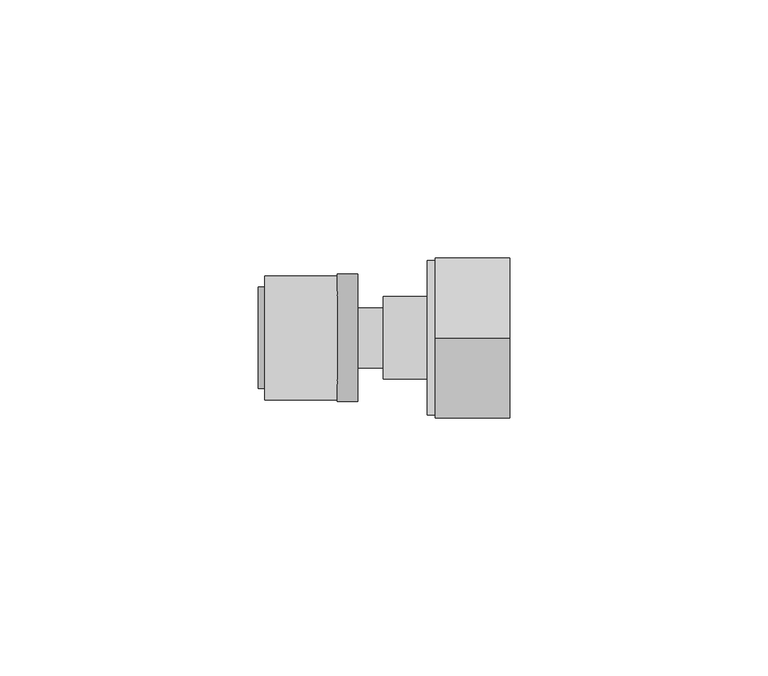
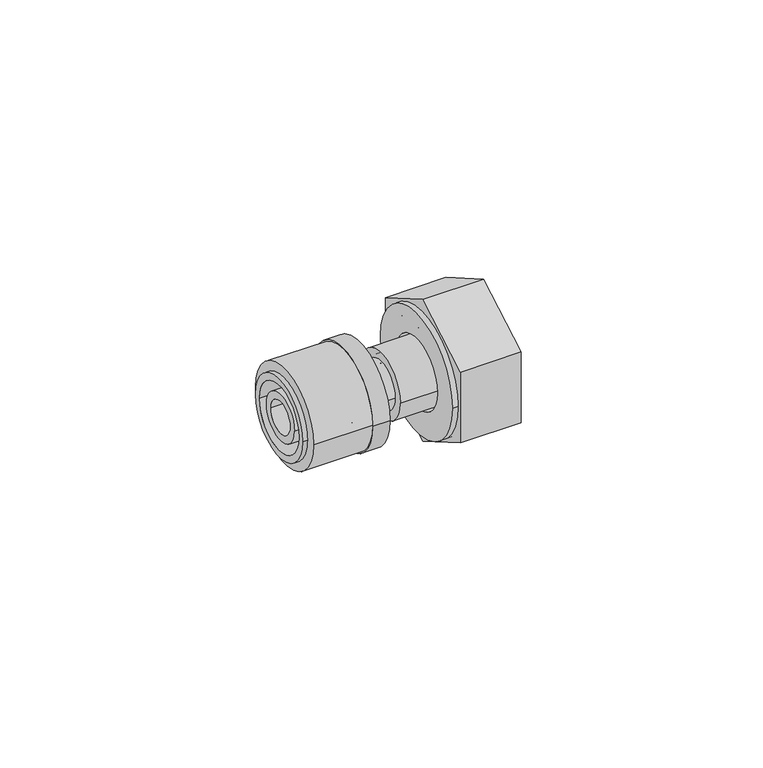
"""IFC4 building model written with IfcOpenShell, lengths in millimetres: pipe fitting geometry, FASTLOC_Adapter with union nut LX : FSL A union nut CZ."""

from ifc_helpers import new_model, si_unit, point, frame, origin, origin_2d, place, context, project, spatial, polyline, circle_curve, trimmed, segment, composite_curve, outline, extrude, source, transform, mapped, element, save
from ifc_brep_helpers import plane_surface, cylinder_surface, revolved_surface, advanced_brep


def pipe_fitting_a340ff43(model_context):
    return source(origin(), model_context, "Body", "SolidModel", [
        extrude(outline(composite_curve([segment(trimmed(circle_curve(origin_2d(), 12.0), [point((12.0, 0.0))], [point((-12.0, 0.0))], False, "CARTESIAN"), True, "CONTINUOUS"), segment(trimmed(circle_curve(origin_2d(), 12.0), [point((-12.0, 0.0))], [point((12.0, 0.0))], False, "CARTESIAN"), True, "CONTINUOUS")], self_intersect=False), holes=[composite_curve([segment(trimmed(circle_curve(origin_2d(), 8.85), [point((8.85, 0.0))], [point((-8.85, 0.0))], True, "CARTESIAN"), True, "CONTINUOUS"), segment(trimmed(circle_curve(origin_2d(), 8.85), [point((-8.85, 0.0))], [point((8.85, 0.0))], True, "CARTESIAN"), True, "CONTINUOUS")], self_intersect=False)]), frame((-23.0, 0.0, 0.0), z_axis=(1.0, 0.0, 0.0), x_axis=(0.0, 1.0, 0.0)), (0.0, 0.0, 1.0), 14.0),
        advanced_brep(
        [(-9.0, -12.35, 0.0), (-9.0, 12.35, 0.0), (-5.0, 12.35, 0.0), (-5.0, -12.35, 0.0), (-24.3, -9.85, 0.0), (-24.3, 9.85, 0.0), (-9.0, 9.85, 0.0), (-9.0, -9.85, 0.0), (-5.0, -8.15, 0.0), (-5.0, 8.15, 0.0), (-24.3, 8.15, 0.0), (-24.3, -8.15, 0.0)],
        [
            (0, 1, circle_curve(frame((-9.0, 0.0, 0.0), z_axis=(1.0, 0.0, 0.0), x_axis=(0.0, 1.0, 0.0)), 12.35)),
            (1, 2),
            (2, 3, circle_curve(frame((-5.0, 0.0, 0.0), z_axis=(-1.0, 0.0, 0.0), x_axis=(0.0, 1.0, 0.0)), 12.35)),
            (3, 0),
            (4, 5, circle_curve(frame((-24.3, 0.0, 0.0), z_axis=(1.0, 0.0, 0.0), x_axis=(0.0, 1.0, 0.0)), 9.85)),
            (5, 6),
            (6, 7, circle_curve(frame((-9.0, 0.0, 0.0), z_axis=(-1.0, 0.0, 0.0), x_axis=(0.0, 1.0, 0.0)), 9.85)),
            (7, 4),
            (8, 9, circle_curve(frame((-5.0, 0.0, 0.0), z_axis=(1.0, 0.0, 0.0), x_axis=(0.0, 1.0, 0.0)), 8.15)),
            (9, 10),
            (10, 11, circle_curve(frame((-24.3, 0.0, 0.0), z_axis=(-1.0, 0.0, 0.0), x_axis=(0.0, 1.0, 0.0)), 8.15)),
            (11, 8),
            (1, 0, circle_curve(frame((-9.0, 0.0, 0.0), z_axis=(1.0, 0.0, 0.0), x_axis=(0.0, -1.0, 0.0)), 12.35)),
            (3, 2, circle_curve(frame((-5.0, 0.0, 0.0), z_axis=(-1.0, 0.0, 0.0), x_axis=(0.0, -1.0, 0.0)), 12.35)),
            (6, 7, circle_curve(frame((-9.0, 0.0, 0.0), z_axis=(1.0, 0.0, 0.0), x_axis=(0.0, -1.0, 0.0)), 9.85)),
            (5, 4, circle_curve(frame((-24.3, 0.0, 0.0), z_axis=(1.0, 0.0, 0.0), x_axis=(0.0, -1.0, 0.0)), 9.85)),
            (10, 11, circle_curve(frame((-24.3, 0.0, 0.0), z_axis=(1.0, 0.0, 0.0), x_axis=(0.0, -1.0, 0.0)), 8.15)),
            (9, 8, circle_curve(frame((-5.0, 0.0, 0.0), z_axis=(1.0, 0.0, 0.0), x_axis=(0.0, -1.0, 0.0)), 8.15)),
        ],
        [
            cylinder_surface(frame((-5.0, 0.0, 0.0), z_axis=(-1.0, 0.0, 0.0), x_axis=(0.0, 1.0, 0.0)), 12.35),
            cylinder_surface(frame((-5.0, 0.0, 0.0), z_axis=(-1.0, 0.0, 0.0), x_axis=(0.0, 1.0, 0.0)), 9.85),
            revolved_surface(polyline([(-24.3, 8.15, 0.0), (-5.0, 8.15, 0.0)]), (-5.0, 0.0, 0.0), (-1.0, 0.0, 0.0)),
            cylinder_surface(frame((-5.0, 0.0, 0.0), z_axis=(-1.0, 0.0, 0.0), x_axis=(0.0, -1.0, 0.0)), 12.35),
            plane_surface(frame((-9.0, 0.0, 0.0), z_axis=(-1.0, 0.0, 0.0), x_axis=(0.0, -1.0, 0.0))),
            cylinder_surface(frame((-5.0, 0.0, 0.0), z_axis=(-1.0, 0.0, 0.0), x_axis=(0.0, -1.0, 0.0)), 9.85),
            plane_surface(frame((-24.3, 0.0, 0.0), z_axis=(-1.0, 0.0, 0.0), x_axis=(0.0, -1.0, 0.0))),
            revolved_surface(polyline([(-24.3, -8.15, 0.0), (-5.0, -8.15, 0.0)]), (-5.0, 0.0, 0.0), (-1.0, 0.0, 0.0)),
            plane_surface(frame((-5.0, 0.0, 0.0), z_axis=(1.0, 0.0, 0.0), x_axis=(0.0, -1.0, 0.0))),
        ],
        [
            (0, [[1, 2, 3, 4]]),
            (1, [[5, 6, 7, 8]]),
            (2, [[9, 10, 11, 12]]),
            (3, [[13, -4, 14, -2]]),
            (4, [[-13, -1], [15, -7]]),
            (5, [[16, -8, -15, -6]]),
            (6, [[-16, -5], [17, -11]]),
            (7, [[18, -12, -17, -10]]),
            (8, [[-14, -3], [-18, -9]]),
        ],
    ),
        advanced_brep(
        [(-9.0, 5.8, 0.0), (-9.0, -5.8, 0.0), (-24.0, -5.8, 0.0), (-24.0, 5.8, 0.0), (-6.3, 6.9, 0.0), (-6.3, -6.9, 0.0), (-9.0, -6.9, 0.0), (-9.0, 6.9, 0.0), (0.0, 5.8, 0.0), (0.0, -5.8, 0.0), (-6.3, -5.8, 0.0), (-6.3, 5.8, 0.0), (-24.0, 3.95, 0.0), (-24.0, -3.95, 0.0), (0.0, -3.95, 0.0), (0.0, 3.95, 0.0)],
        [
            (0, 1, circle_curve(frame((-9.0, 0.0, 0.0), z_axis=(-1.0, 0.0, 0.0), x_axis=(0.0, -1.0, 0.0)), 5.8)),
            (1, 2),
            (2, 3, circle_curve(frame((-24.0, 0.0, 0.0), z_axis=(1.0, 0.0, 0.0), x_axis=(0.0, -1.0, 0.0)), 5.8)),
            (3, 0),
            (4, 5, circle_curve(frame((-6.3, 0.0, 0.0), z_axis=(-1.0, 0.0, 0.0), x_axis=(0.0, -1.0, 0.0)), 6.9)),
            (5, 6),
            (6, 7, circle_curve(frame((-9.0, 0.0, 0.0), z_axis=(1.0, 0.0, 0.0), x_axis=(0.0, -1.0, 0.0)), 6.9)),
            (7, 4),
            (8, 9, circle_curve(frame((0.0, 0.0, 0.0), z_axis=(-1.0, 0.0, 0.0), x_axis=(0.0, -1.0, 0.0)), 5.8)),
            (9, 10),
            (10, 11, circle_curve(frame((-6.3, 0.0, 0.0), z_axis=(1.0, 0.0, 0.0), x_axis=(0.0, -1.0, 0.0)), 5.8)),
            (11, 8),
            (12, 13, circle_curve(frame((-24.0, 0.0, 0.0), z_axis=(-1.0, 0.0, 0.0), x_axis=(0.0, -1.0, 0.0)), 3.95)),
            (13, 14),
            (14, 15, circle_curve(frame((0.0, 0.0, 0.0), z_axis=(1.0, 0.0, 0.0), x_axis=(0.0, -1.0, 0.0)), 3.95)),
            (15, 12),
            (2, 3, circle_curve(frame((-24.0, 0.0, 0.0), z_axis=(-1.0, 0.0, 0.0), x_axis=(0.0, 1.0, 0.0)), 5.8)),
            (12, 13, circle_curve(frame((-24.0, 0.0, 0.0), z_axis=(1.0, 0.0, 0.0), x_axis=(0.0, 1.0, 0.0)), 3.95)),
            (1, 0, circle_curve(frame((-9.0, 0.0, 0.0), z_axis=(-1.0, 0.0, 0.0), x_axis=(0.0, 1.0, 0.0)), 5.8)),
            (6, 7, circle_curve(frame((-9.0, 0.0, 0.0), z_axis=(-1.0, 0.0, 0.0), x_axis=(0.0, 1.0, 0.0)), 6.9)),
            (5, 4, circle_curve(frame((-6.3, 0.0, 0.0), z_axis=(-1.0, 0.0, 0.0), x_axis=(0.0, 1.0, 0.0)), 6.9)),
            (10, 11, circle_curve(frame((-6.3, 0.0, 0.0), z_axis=(-1.0, 0.0, 0.0), x_axis=(0.0, 1.0, 0.0)), 5.8)),
            (9, 8, circle_curve(frame((0.0, 0.0, 0.0), z_axis=(-1.0, 0.0, 0.0), x_axis=(0.0, 1.0, 0.0)), 5.8)),
            (14, 15, circle_curve(frame((0.0, 0.0, 0.0), z_axis=(-1.0, 0.0, 0.0), x_axis=(0.0, 1.0, 0.0)), 3.95)),
        ],
        [
            cylinder_surface(frame((0.0, 0.0, 0.0), z_axis=(1.0, 0.0, 0.0), x_axis=(0.0, -1.0, 0.0)), 5.8),
            cylinder_surface(frame((0.0, 0.0, 0.0), z_axis=(1.0, 0.0, 0.0), x_axis=(0.0, -1.0, 0.0)), 6.9),
            revolved_surface(polyline([(0.0, -3.95, 0.0), (-24.0, -3.95, 0.0)]), (0.0, 0.0, 0.0), (1.0, 0.0, 0.0)),
            plane_surface(frame((-24.0, 0.0, 0.0), z_axis=(-1.0, 0.0, 0.0), x_axis=(0.0, 1.0, 0.0))),
            cylinder_surface(frame((0.0, 0.0, 0.0), z_axis=(1.0, 0.0, 0.0), x_axis=(0.0, 1.0, 0.0)), 5.8),
            plane_surface(frame((-9.0, 0.0, 0.0), z_axis=(-1.0, 0.0, 0.0), x_axis=(0.0, 1.0, 0.0))),
            cylinder_surface(frame((0.0, 0.0, 0.0), z_axis=(1.0, 0.0, 0.0), x_axis=(0.0, 1.0, 0.0)), 6.9),
            plane_surface(frame((-6.3, 0.0, 0.0), z_axis=(1.0, 0.0, 0.0), x_axis=(0.0, 1.0, 0.0))),
            plane_surface(frame((0.0, 0.0, 0.0), z_axis=(1.0, 0.0, 0.0), x_axis=(0.0, 1.0, 0.0))),
            revolved_surface(polyline([(0.0, 3.95, 0.0), (-24.0, 3.95, 0.0)]), (0.0, 0.0, 0.0), (1.0, 0.0, 0.0)),
        ],
        [
            (0, [[1, 2, 3, 4]]),
            (1, [[5, 6, 7, 8]]),
            (0, [[9, 10, 11, 12]]),
            (2, [[13, 14, 15, 16]]),
            (3, [[17, -3], [18, -13]]),
            (4, [[19, -4, -17, -2]]),
            (5, [[20, -7], [-19, -1]]),
            (6, [[21, -8, -20, -6]]),
            (7, [[-21, -5], [22, -11]]),
            (4, [[23, -12, -22, -10]]),
            (8, [[-23, -9], [24, -15]]),
            (9, [[-18, -16, -24, -14]]),
        ],
    ),
        extrude(outline(polyline([(0.0, -17.8978583), (-15.5, -8.9489292), (-15.5, 8.9489292), (0.0, 17.8978583), (15.5, 8.9489292), (15.5, -8.9489292), (0.0, -17.8978583)]), holes=[composite_curve([segment(trimmed(circle_curve(origin_2d(), 12.1), [point((-12.1, 0.0))], [point((12.1, 0.0))], True, "CARTESIAN"), True, "CONTINUOUS"), segment(trimmed(circle_curve(origin_2d(), 12.1), [point((12.1, 0.0))], [point((-12.1, 0.0))], True, "CARTESIAN"), True, "CONTINUOUS")], self_intersect=False)]), frame((10.0, 0.0, 0.0), z_axis=(1.0, 0.0, 0.0), x_axis=(0.0, 1.0, 0.0)), (0.0, 0.0, 1.0), 14.5),
        advanced_brep(
        [(24.5, 15.0, 0.0), (24.5, -15.0, 0.0), (8.5, -15.0, 0.0), (8.5, 15.0, 0.0), (12.0, 12.1, 0.0), (12.0, -12.1, 0.0), (24.5, -12.1, 0.0), (24.5, 12.1, 0.0), (8.5, 8.6, 0.0), (8.5, -8.6, 0.0), (12.0, -8.6, 0.0), (12.0, 8.6, 0.0)],
        [
            (0, 1, circle_curve(frame((24.5, 0.0, 0.0), z_axis=(-1.0, 0.0, 0.0), x_axis=(0.0, -1.0, 0.0)), 15.0)),
            (1, 2),
            (2, 3, circle_curve(frame((8.5, 0.0, 0.0), z_axis=(1.0, 0.0, 0.0), x_axis=(0.0, -1.0, 0.0)), 15.0)),
            (3, 0),
            (4, 5, circle_curve(frame((12.0, 0.0, 0.0), z_axis=(-1.0, 0.0, 0.0), x_axis=(0.0, -1.0, 0.0)), 12.1)),
            (5, 6),
            (6, 7, circle_curve(frame((24.5, 0.0, 0.0), z_axis=(1.0, 0.0, 0.0), x_axis=(0.0, -1.0, 0.0)), 12.1)),
            (7, 4),
            (8, 9, circle_curve(frame((8.5, 0.0, 0.0), z_axis=(-1.0, 0.0, 0.0), x_axis=(0.0, -1.0, 0.0)), 8.6)),
            (9, 10),
            (10, 11, circle_curve(frame((12.0, 0.0, 0.0), z_axis=(1.0, 0.0, 0.0), x_axis=(0.0, -1.0, 0.0)), 8.6)),
            (11, 8),
            (1, 0, circle_curve(frame((24.5, 0.0, 0.0), z_axis=(-1.0, 0.0, 0.0), x_axis=(0.0, 1.0, 0.0)), 15.0)),
            (3, 2, circle_curve(frame((8.5, 0.0, 0.0), z_axis=(1.0, 0.0, 0.0), x_axis=(0.0, 1.0, 0.0)), 15.0)),
            (6, 7, circle_curve(frame((24.5, 0.0, 0.0), z_axis=(-1.0, 0.0, 0.0), x_axis=(0.0, 1.0, 0.0)), 12.1)),
            (5, 4, circle_curve(frame((12.0, 0.0, 0.0), z_axis=(-1.0, 0.0, 0.0), x_axis=(0.0, 1.0, 0.0)), 12.1)),
            (10, 11, circle_curve(frame((12.0, 0.0, 0.0), z_axis=(-1.0, 0.0, 0.0), x_axis=(0.0, 1.0, 0.0)), 8.6)),
            (9, 8, circle_curve(frame((8.5, 0.0, 0.0), z_axis=(-1.0, 0.0, 0.0), x_axis=(0.0, 1.0, 0.0)), 8.6)),
        ],
        [
            cylinder_surface(frame((0.0, 0.0, 0.0), z_axis=(1.0, 0.0, 0.0), x_axis=(0.0, -1.0, 0.0)), 15.0),
            revolved_surface(polyline([(24.5, -12.1, 0.0), (12.0, -12.1, 0.0)]), (0.0, 0.0, 0.0), (1.0, 0.0, 0.0)),
            revolved_surface(polyline([(12.0, -8.6, 0.0), (8.5, -8.6, 0.0)]), (0.0, 0.0, 0.0), (1.0, 0.0, 0.0)),
            cylinder_surface(frame((0.0, 0.0, 0.0), z_axis=(1.0, 0.0, 0.0), x_axis=(0.0, 1.0, 0.0)), 15.0),
            plane_surface(frame((24.5, 0.0, 0.0), z_axis=(1.0, 0.0, 0.0), x_axis=(0.0, 1.0, 0.0))),
            revolved_surface(polyline([(24.5, 12.1, 0.0), (12.0, 12.1, 0.0)]), (0.0, 0.0, 0.0), (1.0, 0.0, 0.0)),
            plane_surface(frame((12.0, 0.0, 0.0), z_axis=(1.0, 0.0, 0.0), x_axis=(0.0, 1.0, 0.0))),
            revolved_surface(polyline([(12.0, 8.6, 0.0), (8.5, 8.6, 0.0)]), (0.0, 0.0, 0.0), (1.0, 0.0, 0.0)),
            plane_surface(frame((8.5, 0.0, 0.0), z_axis=(-1.0, 0.0, 0.0), x_axis=(0.0, 1.0, 0.0))),
        ],
        [
            (0, [[1, 2, 3, 4]]),
            (1, [[5, 6, 7, 8]]),
            (2, [[9, 10, 11, 12]]),
            (3, [[13, -4, 14, -2]]),
            (4, [[-13, -1], [15, -7]]),
            (5, [[16, -8, -15, -6]]),
            (6, [[-16, -5], [17, -11]]),
            (7, [[18, -12, -17, -10]]),
            (8, [[-14, -3], [-18, -9]]),
        ],
    ),
        advanced_brep(
        [(12.0, 8.0, 0.0), (12.0, -8.0, 0.0), (0.0, -8.0, 0.0), (0.0, 8.0, 0.0), (14.0, 12.1, 0.0), (14.0, -12.1, 0.0), (12.0, -12.1, 0.0), (12.0, 12.1, 0.0), (1.4730817, 6.25, 0.0), (1.4730817, -6.25, 0.0), (14.0, -6.25, 0.0), (14.0, 6.25, 0.0), (0.0, 4.0764556, 0.0), (0.0, -4.0764556, 0.0), (1.4730817, -4.0764556, 0.0), (1.4730817, 4.0764556, 0.0)],
        [
            (0, 1, circle_curve(frame((12.0, 0.0, 0.0), z_axis=(-1.0, 0.0, 0.0), x_axis=(0.0, -1.0, 0.0)), 8.0)),
            (1, 2),
            (2, 3, circle_curve(frame((0.0, 0.0, 0.0), z_axis=(1.0, 0.0, 0.0), x_axis=(0.0, -1.0, 0.0)), 8.0)),
            (3, 0),
            (4, 5, circle_curve(frame((14.0, 0.0, 0.0), z_axis=(-1.0, 0.0, 0.0), x_axis=(0.0, -1.0, 0.0)), 12.1)),
            (5, 6),
            (6, 7, circle_curve(frame((12.0, 0.0, 0.0), z_axis=(1.0, 0.0, 0.0), x_axis=(0.0, -1.0, 0.0)), 12.1)),
            (7, 4),
            (8, 9, circle_curve(frame((1.4730817, 0.0, 0.0), z_axis=(-1.0, 0.0, 0.0), x_axis=(0.0, -1.0, 0.0)), 6.25)),
            (9, 10),
            (10, 11, circle_curve(frame((14.0, 0.0, 0.0), z_axis=(1.0, 0.0, 0.0), x_axis=(0.0, -1.0, 0.0)), 6.25)),
            (11, 8),
            (12, 13, circle_curve(frame((0.0, 0.0, 0.0), z_axis=(-1.0, 0.0, 0.0), x_axis=(0.0, -1.0, 0.0)), 4.0764556)),
            (13, 14),
            (14, 15, circle_curve(frame((1.4730817, 0.0, 0.0), z_axis=(1.0, 0.0, 0.0), x_axis=(0.0, -1.0, 0.0)), 4.0764556)),
            (15, 12),
            (2, 3, circle_curve(frame((0.0, 0.0, 0.0), z_axis=(-1.0, 0.0, 0.0), x_axis=(0.0, 1.0, 0.0)), 8.0)),
            (12, 13, circle_curve(frame((0.0, 0.0, 0.0), z_axis=(1.0, 0.0, 0.0), x_axis=(0.0, 1.0, 0.0)), 4.0764556)),
            (1, 0, circle_curve(frame((12.0, 0.0, 0.0), z_axis=(-1.0, 0.0, 0.0), x_axis=(0.0, 1.0, 0.0)), 8.0)),
            (6, 7, circle_curve(frame((12.0, 0.0, 0.0), z_axis=(-1.0, 0.0, 0.0), x_axis=(0.0, 1.0, 0.0)), 12.1)),
            (5, 4, circle_curve(frame((14.0, 0.0, 0.0), z_axis=(-1.0, 0.0, 0.0), x_axis=(0.0, 1.0, 0.0)), 12.1)),
            (10, 11, circle_curve(frame((14.0, 0.0, 0.0), z_axis=(-1.0, 0.0, 0.0), x_axis=(0.0, 1.0, 0.0)), 6.25)),
            (9, 8, circle_curve(frame((1.4730817, 0.0, 0.0), z_axis=(-1.0, 0.0, 0.0), x_axis=(0.0, 1.0, 0.0)), 6.25)),
            (14, 15, circle_curve(frame((1.4730817, 0.0, 0.0), z_axis=(-1.0, 0.0, 0.0), x_axis=(0.0, 1.0, 0.0)), 4.0764556)),
        ],
        [
            cylinder_surface(frame((0.0, 0.0, 0.0), z_axis=(1.0, 0.0, 0.0), x_axis=(0.0, -1.0, 0.0)), 8.0),
            cylinder_surface(frame((0.0, 0.0, 0.0), z_axis=(1.0, 0.0, 0.0), x_axis=(0.0, -1.0, 0.0)), 12.1),
            revolved_surface(polyline([(14.0, -6.25, 0.0), (1.4730817, -6.25, 0.0)]), (0.0, 0.0, 0.0), (1.0, 0.0, 0.0)),
            revolved_surface(polyline([(1.4730817, -4.0764556, 0.0), (0.0, -4.0764556, 0.0)]), (0.0, 0.0, 0.0), (1.0, 0.0, 0.0)),
            plane_surface(frame((0.0, 0.0, 0.0), z_axis=(-1.0, 0.0, 0.0), x_axis=(0.0, 1.0, 0.0))),
            cylinder_surface(frame((0.0, 0.0, 0.0), z_axis=(1.0, 0.0, 0.0), x_axis=(0.0, 1.0, 0.0)), 8.0),
            plane_surface(frame((12.0, 0.0, 0.0), z_axis=(-1.0, 0.0, 0.0), x_axis=(0.0, 1.0, 0.0))),
            cylinder_surface(frame((0.0, 0.0, 0.0), z_axis=(1.0, 0.0, 0.0), x_axis=(0.0, 1.0, 0.0)), 12.1),
            plane_surface(frame((14.0, 0.0, 0.0), z_axis=(1.0, 0.0, 0.0), x_axis=(0.0, 1.0, 0.0))),
            revolved_surface(polyline([(14.0, 6.25, 0.0), (1.4730817, 6.25, 0.0)]), (0.0, 0.0, 0.0), (1.0, 0.0, 0.0)),
            plane_surface(frame((1.4730817, 0.0, 0.0), z_axis=(1.0, 0.0, 0.0), x_axis=(0.0, 1.0, 0.0))),
            revolved_surface(polyline([(1.4730817, 4.0764556, 0.0), (0.0, 4.0764556, 0.0)]), (0.0, 0.0, 0.0), (1.0, 0.0, 0.0)),
        ],
        [
            (0, [[1, 2, 3, 4]]),
            (1, [[5, 6, 7, 8]]),
            (2, [[9, 10, 11, 12]]),
            (3, [[13, 14, 15, 16]]),
            (4, [[17, -3], [18, -13]]),
            (5, [[19, -4, -17, -2]]),
            (6, [[20, -7], [-19, -1]]),
            (7, [[21, -8, -20, -6]]),
            (8, [[-21, -5], [22, -11]]),
            (9, [[23, -12, -22, -10]]),
            (10, [[-23, -9], [24, -15]]),
            (11, [[-18, -16, -24, -14]]),
        ],
    ),
    ])


if __name__ == "__main__":
    model = new_model("IFC4")
    model_context = context("Model", 3, world=origin())
    ifc_project = project(units=[si_unit("LENGTHUNIT", "METRE", prefix="MILLI")], contexts=[model_context])
    site = spatial("IfcSite", under=ifc_project)
    building = spatial("IfcBuilding", under=site)
    placement = place(None, origin())
    pipe_fitting_shape = pipe_fitting_a340ff43(model_context)
    element("IfcPipeFitting", 1, ObjectType="FASTLOC_Adapter with union nut LX : FSL A union nut CZ", at=placement, inside=building, context=model_context, shape_type="MappedRepresentation", body=[
        mapped(pipe_fitting_shape, transform((0.0, 0.0, 0.0), x_axis=(1.0, 0.0, 0.0), y_axis=(0.0, 1.0, 0.0), z_axis=(0.0, 0.0, 1.0))),
    ])
    save(model, "model.ifc")
